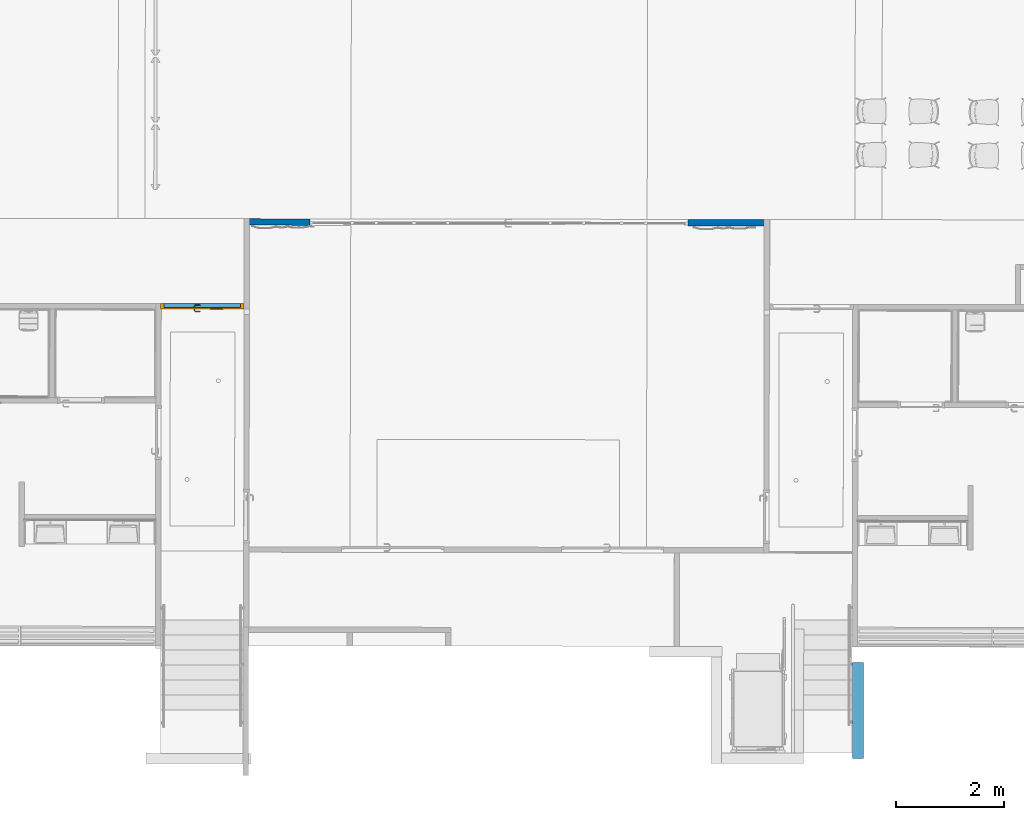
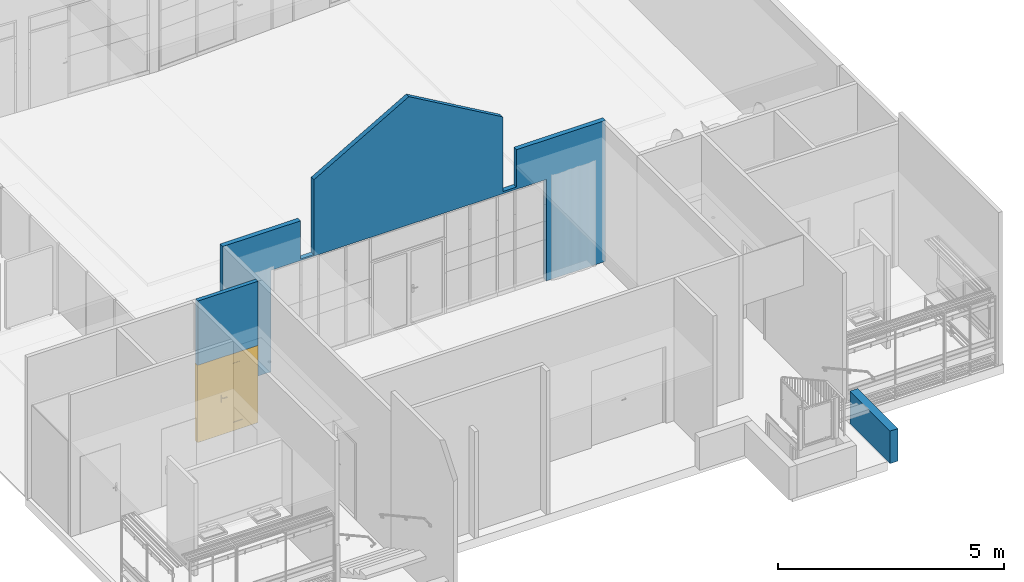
# One storey, part 13 of 43: 3 walls, 1 door, 4 openings.
"""IFC2X3 building model written with IfcOpenShell, lengths in metres."""

from ifc_helpers import new_model, entity, si_unit, converted_unit, derived_unit, direction, frame, frame_2d, origin, place, context, subcontext, project, spatial, polyline, rectangle, outline, extrude, clip, halfspace, bounded_halfspace, faceted_brep, source, transform, mapped, material, material_list, layer, layer_set, layer_usage, type_object, type_shapes, element, fill, save


model = new_model("IFC2X3")

# Units and contexts
model_context = context("Model", 3, precision=1e-05, world=origin(), true_north=direction((6.123233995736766e-17, 1.0)))
body_context = subcontext(model_context, "Body", "Model", "MODEL_VIEW")
ifc_project = project(units=[si_unit("LENGTHUNIT", "METRE"), si_unit("AREAUNIT", "SQUARE_METRE"), converted_unit("PLANEANGLEUNIT", "DEGREE", entity("IfcPlaneAngleMeasure", 0.017453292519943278), si_unit("PLANEANGLEUNIT", "RADIAN"), dimensions=[0, 0, 0, 0, 0, 0, 0]), derived_unit("THERMALTRANSMITTANCEUNIT", [(si_unit("MASSUNIT", "GRAM", prefix="KILO"), 1), (si_unit("THERMODYNAMICTEMPERATUREUNIT", "KELVIN"), -1), (si_unit("TIMEUNIT", "SECOND"), -3)])], contexts=[model_context])

# Site, building, storey
site_placement = place(None, frame((1253.6752467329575, 2072.143113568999, 91.49999999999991), z_axis=(0.0, 0.0, 1.0), x_axis=(0.7237211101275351, 0.6900925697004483, 0.0)))
site = spatial("IfcSite", under=ifc_project, at=site_placement, Name="Surface", CompositionType="ELEMENT")
building_placement = place(site_placement, origin())
building = spatial("IfcBuilding", under=site, at=building_placement, CompositionType="ELEMENT")
storey_placement = place(building_placement, frame((0.0, 0.0, -4.629999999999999)))
storey = spatial("IfcBuildingStorey", under=building, at=storey_placement, Name="rez de rue -1.10m", CompositionType="ELEMENT", Elevation=-4.629999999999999)

# Wall, opening, door
ifc_material_1 = material(Name="OMD_Cloison 100mm CF1h")
ifc_layer_1 = layer(ifc_material_1, 0.1)
ifc_layer_set_1 = layer_set([ifc_layer_1], Name="Mur de base:Cloison 100mm CF1h")
ifc_layer_usage_1 = layer_usage(ifc_layer_set_1, "AXIS2", "POSITIVE", -0.05)
wall_type_1 = type_object("IfcWallType", Name="Mur de base:Cloison 100mm CF1h", PredefinedType="STANDARD", material=ifc_layer_set_1)
wall_1_placement = place(storey_placement, frame((168.61201545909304, 1.5991254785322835, 0.0), z_axis=(0.0, 0.0, 1.0), x_axis=(-0.7232360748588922, 0.6906008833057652, 0.0)))
wall_1 = element("IfcWallStandardCase", 1, at=wall_1_placement, inside=storey, type_object=wall_type_1, material=ifc_layer_usage_1, Name="Mur de base:Cloison 100mm CF1h", ObjectType="Mur de base:Cloison 100mm CF1h", context=body_context, shape_type="Clipping", body=[
    clip(extrude(outline(polyline([(1.5370767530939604, -0.05000000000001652), (1.5371533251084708, 0.049999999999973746), (0.0014290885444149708, 0.049999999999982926), (0.0012996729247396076, -0.050000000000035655), (1.5370767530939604, -0.05000000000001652)])), origin(), (0.0, 0.0, 1.0), 3.821638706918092), bounded_halfspace(frame((0.0, -0.05000000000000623, 3.8207380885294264), z_axis=(-6.815720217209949e-06, -0.008901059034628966, 0.9999603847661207), x_axis=(0.9999997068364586, -0.0007657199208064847, 0.0)), False, frame((0.0, -0.05000000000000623, 3.8207380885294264)), polyline([(0.0, 0.0), (1.537076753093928, 0.0), (1.537153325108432, 0.09999999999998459), (7.657201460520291e-05, 0.09999999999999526), (0.0, 0.0)]))),
])
opening_1_placement = place(wall_1_placement, frame((7.65720145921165e-05, -0.049999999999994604, 0.004999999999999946)))
opening_1 = element("IfcOpeningElement", 2, at=opening_1_placement, cuts=wall_1, Name="OMD_Porte 2V tunnel:140x204 +occulus:1", ObjectType="Opening", context=body_context, shape_type="SweptSolid", body=[
    extrude(rectangle(XDim=2.085, YDim=1.5499999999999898, at=frame_2d((1.0425, 0.7749999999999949), x_axis=(1.0, 0.0))), frame((0.0, 0.0, 0.0), z_axis=(0.0, 1.0, 0.0), x_axis=(0.0, 0.0, 1.0)), (0.0, 0.0, 1.0), 0.09999999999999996),
])
ifc_material_2 = material(Name="<Unnamed>")
ifc_material_3 = material(Name="Porte - Poignée")
ifc_material_4 = material(Name="Verre")
ifc_material_5 = material(Name="OMD_RAL5023")
ifc_material_list = material_list([ifc_material_2, ifc_material_3, ifc_material_4, ifc_material_5])
door_style = type_object("IfcDoorStyle", Name="OMD_Porte 2V tunnel:140x204 +occulus", ConstructionType="NOTDEFINED", OperationType="NOTDEFINED", ParameterTakesPrecedence=False, Sizeable=False, material=ifc_material_list)
shared_shape = source(origin(), body_context, "Body", "Brep", [
    faceted_brep([(0.1450000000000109, 0.030000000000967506, 0.0), (0.6750000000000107, 0.030000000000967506, 0.0), (0.6750000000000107, 0.0, 0.0), (0.1450000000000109, 0.0, 0.0), (0.1450000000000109, 0.030000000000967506, 2.04), (0.1450000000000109, 0.0, 2.04), (0.6750000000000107, 0.0, 2.04), (0.6750000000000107, 0.030000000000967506, 2.04)], [[[0, 1, 2, 3]], [[4, 0, 3, 5]], [[5, 3, 2, 6]], [[6, 2, 1, 7]], [[7, 1, 0, 4]], [[4, 5, 6, 7]]]),
    faceted_brep([(0.7279747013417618, 0.035000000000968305, 1.0077804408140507), (0.7239999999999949, 0.035000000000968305, 1.0069999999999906), (0.7239999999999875, 0.035000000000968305, 0.9929999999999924), (0.7279747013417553, 0.035000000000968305, 0.9922195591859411), (0.7320252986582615, 0.035000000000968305, 0.9922195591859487), (0.7360000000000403, 0.035000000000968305, 0.9930000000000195), (0.7360000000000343, 0.035000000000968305, 1.0069999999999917), (0.7320252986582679, 0.035000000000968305, 1.007780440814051), (0.7360000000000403, 0.057485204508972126, 0.9930000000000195), (0.7360000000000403, 0.057485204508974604, 1.0069999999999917), (0.7320252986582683, 0.05913157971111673, 1.007780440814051), (0.7458389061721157, 0.07294518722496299, 1.007780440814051), (0.7441610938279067, 0.07699578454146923, 1.0077804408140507), (0.7279747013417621, 0.06080939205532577, 1.0077804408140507), (0.8356847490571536, 0.06646731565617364, 1.0077804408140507), (0.8385489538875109, 0.06933152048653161, 1.0077804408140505), (0.8308846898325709, 0.07699578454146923, 1.0077804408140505), (0.8292068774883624, 0.07294518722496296, 1.0077804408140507), (0.7239999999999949, 0.06245576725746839, 1.0069999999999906), (0.7239999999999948, 0.06245576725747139, 0.9929999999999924), (0.7279747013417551, 0.060809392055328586, 0.9922195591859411), (0.7441610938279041, 0.07699578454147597, 0.9922195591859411), (0.7458389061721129, 0.07294518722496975, 0.9922195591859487), (0.7320252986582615, 0.05913157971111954, 0.9922195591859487), (0.8385489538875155, 0.06933152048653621, 0.9922195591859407), (0.8356847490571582, 0.06646731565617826, 0.9922195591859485), (0.8292068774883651, 0.07294518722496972, 0.9922195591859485), (0.8308846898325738, 0.07699578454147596, 0.9922195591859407), (0.74748528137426, 0.06897048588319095, 0.9930000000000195), (0.7474852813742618, 0.06897048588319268, 1.0069999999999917), (0.7425147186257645, 0.08097048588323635, 1.0069999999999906), (0.7425147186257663, 0.08097048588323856, 0.9929999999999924), (0.787522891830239, 0.06897048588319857, 0.9930000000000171), (0.8275605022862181, 0.06897048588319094, 0.9930000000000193), (0.8275605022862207, 0.06897048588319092, 1.0069999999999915), (0.787522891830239, 0.06897048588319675, 1.0069999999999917), (0.7875228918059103, 0.07512492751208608, 1.0078781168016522), (0.8325310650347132, 0.0809704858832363, 1.0069999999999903), (0.7926005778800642, 0.08097048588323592, 1.0069999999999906), (0.8325310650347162, 0.08097048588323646, 0.9929999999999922), (0.7824452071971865, 0.08097048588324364, 0.9929999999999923), (0.7875228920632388, 0.07512492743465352, 0.9921218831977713), (0.8328742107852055, 0.06365677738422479, 0.9930000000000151), (0.8413594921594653, 0.0721420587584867, 0.99299999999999), (0.8413594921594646, 0.07214205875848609, 1.0069999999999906), (0.8328742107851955, 0.06365677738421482, 1.0069999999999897)], [[[0, 1, 2, 3, 4, 5, 6, 7]], [[6, 5, 8, 9]], [[9, 10, 7, 6]], [[10, 11, 12, 13, 0, 7]], [[14, 15, 16, 17]], [[13, 18, 1, 0]], [[2, 1, 18, 19]], [[19, 20, 3, 2]], [[20, 21, 22, 23, 4, 3]], [[24, 25, 26, 27]], [[23, 8, 5, 4]], [[9, 8, 28, 29]], [[29, 11, 10, 9]], [[12, 30, 18, 13]], [[19, 18, 30, 31]], [[31, 21, 20, 19]], [[22, 28, 8, 23]], [[29, 28, 32, 33, 34, 35]], [[11, 35, 36]], [[16, 37, 38]], [[30, 12, 38]], [[38, 12, 36]], [[36, 35, 17]], [[17, 16, 36]], [[35, 11, 29]], [[34, 17, 35]], [[11, 36, 12]], [[38, 36, 16]], [[31, 30, 38, 37, 39, 40]], [[40, 41, 21]], [[41, 40, 27]], [[21, 31, 40]], [[39, 27, 40]], [[41, 32, 22]], [[22, 21, 41]], [[26, 32, 41]], [[28, 22, 32]], [[32, 26, 33]], [[26, 41, 27]], [[42, 25, 24, 43, 44, 15, 14, 45]], [[34, 33, 42, 45]], [[45, 14, 17, 34]], [[15, 44, 37, 16]], [[39, 37, 44, 43]], [[43, 24, 27, 39]], [[25, 42, 33, 26]]]),
    faceted_brep([(0.7279747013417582, -0.004999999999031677, 1.0077804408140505), (0.7320252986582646, -0.004999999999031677, 1.007780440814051), (0.7360000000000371, -0.004999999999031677, 1.006999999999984), (0.7360000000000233, -0.004999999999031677, 0.9930000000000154), (0.7320252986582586, -0.004999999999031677, 0.9922195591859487), (0.7279747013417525, -0.004999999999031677, 0.992219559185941), (0.7239999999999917, -0.004999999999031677, 0.992999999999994), (0.7239999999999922, -0.004999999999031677, 1.0069999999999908), (0.723999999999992, -0.03265095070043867, 1.0069999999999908), (0.727974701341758, -0.031004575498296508, 1.0077804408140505), (0.7440235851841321, -0.047053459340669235, 1.0077804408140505), (0.745701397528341, -0.043002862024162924, 1.007780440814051), (0.7320252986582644, -0.029326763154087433, 1.007780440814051), (0.8385218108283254, -0.03938919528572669, 1.0077804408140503), (0.8356576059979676, -0.036524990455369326, 1.0077804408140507), (0.8291797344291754, -0.043002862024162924, 1.0077804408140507), (0.8308575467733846, -0.047053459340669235, 1.0077804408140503), (0.7360000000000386, -0.027680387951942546, 1.0069999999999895), (0.7360000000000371, -0.027680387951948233, 0.9930000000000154), (0.7320252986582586, -0.029326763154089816, 0.9922195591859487), (0.7457013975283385, -0.04300286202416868, 0.9922195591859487), (0.7440235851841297, -0.04705345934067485, 0.992219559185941), (0.7279747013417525, -0.031004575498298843, 0.992219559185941), (0.8356576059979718, -0.03652499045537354, 0.9922195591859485), (0.8385218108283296, -0.03938919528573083, 0.9922195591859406), (0.8308575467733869, -0.04705345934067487, 0.9922195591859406), (0.8291797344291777, -0.04300286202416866, 0.9922195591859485), (0.7239999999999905, -0.03265095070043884, 0.9929999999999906), (0.7423772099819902, -0.051028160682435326, 1.0069999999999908), (0.7473477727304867, -0.03902816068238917, 1.0069999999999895), (0.7473477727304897, -0.03902816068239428, 0.9930000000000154), (0.7423772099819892, -0.05102816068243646, 0.9929999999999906), (0.7823076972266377, -0.05102816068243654, 1.0069999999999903), (0.7874405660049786, -0.045182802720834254, 1.0078781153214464), (0.8325039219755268, -0.051028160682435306, 1.0069999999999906), (0.7874405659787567, -0.039028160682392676, 1.0069999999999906), (0.8275333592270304, -0.039028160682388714, 1.0069999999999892), (0.827533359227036, -0.03902816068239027, 0.9930000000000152), (0.7874405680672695, -0.03902816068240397, 0.9930000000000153), (0.7874405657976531, -0.04518280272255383, 0.9921218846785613), (0.832503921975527, -0.05102816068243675, 0.9929999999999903), (0.7925734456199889, -0.051028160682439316, 0.9929999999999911), (0.8328470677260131, -0.03371445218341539, 1.0069999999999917), (0.8413323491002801, -0.042199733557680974, 1.0069999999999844), (0.841332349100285, -0.04219973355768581, 0.9929999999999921), (0.8328470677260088, -0.03371445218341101, 0.9930000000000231)], [[[0, 1, 2, 3, 4, 5, 6, 7]], [[8, 9, 0, 7]], [[9, 10, 11, 12, 1, 0]], [[13, 14, 15, 16]], [[12, 17, 2, 1]], [[3, 2, 17, 18]], [[18, 19, 4, 3]], [[19, 20, 21, 22, 5, 4]], [[23, 24, 25, 26]], [[22, 27, 6, 5]], [[7, 6, 27, 8]], [[28, 10, 9, 8]], [[11, 29, 17, 12]], [[18, 17, 29, 30]], [[30, 20, 19, 18]], [[21, 31, 27, 22]], [[8, 27, 31, 28]], [[32, 33, 10]], [[33, 32, 16]], [[10, 28, 32]], [[34, 16, 32]], [[33, 35, 11]], [[11, 10, 33]], [[15, 35, 33]], [[29, 11, 35]], [[35, 15, 36]], [[15, 33, 16]], [[30, 29, 35, 36, 37, 38]], [[20, 38, 39]], [[25, 40, 41]], [[31, 21, 41]], [[41, 21, 39]], [[39, 38, 26]], [[26, 25, 39]], [[38, 20, 30]], [[37, 26, 38]], [[20, 39, 21]], [[41, 39, 25]], [[28, 31, 41, 40, 34, 32]], [[42, 14, 13, 43, 44, 24, 23, 45]], [[43, 13, 16, 34]], [[14, 42, 36, 15]], [[37, 36, 42, 45]], [[45, 23, 26, 37]], [[24, 44, 40, 25]], [[34, 40, 44, 43]]]),
    faceted_brep([(0.7403527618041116, 0.030000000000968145, 0.8660039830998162), (0.7500000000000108, 0.030000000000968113, 0.8700000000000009), (0.7500000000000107, 0.030000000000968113, 1.0800000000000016), (0.7403527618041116, 0.030000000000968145, 1.0839960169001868), (0.730000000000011, 0.03000000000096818, 1.0853589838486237), (0.7196472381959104, 0.03000000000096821, 1.0839960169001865), (0.7100000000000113, 0.030000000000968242, 1.0800000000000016), (0.7100000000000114, 0.030000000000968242, 0.8700000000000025), (0.7196472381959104, 0.03000000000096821, 0.866003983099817), (0.7300000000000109, 0.03000000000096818, 0.8646410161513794), (0.7403527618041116, 0.035000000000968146, 1.0839960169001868), (0.7500000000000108, 0.03500000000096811, 1.0800000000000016), (0.7500000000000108, 0.03500000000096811, 0.8700000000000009), (0.7403527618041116, 0.035000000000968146, 0.8660039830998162), (0.7300000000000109, 0.03500000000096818, 0.8646410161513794), (0.7196472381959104, 0.035000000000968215, 0.866003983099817), (0.7100000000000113, 0.03500000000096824, 0.8700000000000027), (0.7100000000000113, 0.03500000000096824, 1.0800000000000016), (0.7196472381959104, 0.035000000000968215, 1.0839960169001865), (0.730000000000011, 0.03500000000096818, 1.0853589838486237)], [[[0, 1, 2, 3, 4, 5, 6, 7, 8, 9]], [[10, 11, 12, 13, 14, 15, 16, 17, 18, 19]], [[11, 10, 3, 2]], [[3, 10, 19, 4]], [[19, 18, 5, 4]], [[18, 17, 6, 5]], [[7, 6, 17, 16]], [[16, 15, 8, 7]], [[8, 15, 14, 9]], [[14, 13, 0, 9]], [[13, 12, 1, 0]], [[2, 1, 12, 11]]]),
    faceted_brep([(0.7403527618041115, -0.004999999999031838, 0.8660039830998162), (0.7500000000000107, -0.004999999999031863, 0.8700000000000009), (0.7500000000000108, -0.004999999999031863, 1.0800000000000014), (0.7403527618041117, -0.004999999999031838, 1.0839960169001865), (0.7300000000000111, -0.004999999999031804, 1.0853589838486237), (0.7196472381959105, -0.00499999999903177, 1.0839960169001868), (0.7100000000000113, -0.0049999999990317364, 1.0800000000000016), (0.7100000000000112, -0.0049999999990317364, 0.8700000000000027), (0.71964723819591, -0.00499999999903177, 0.8660039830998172), (0.7300000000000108, -0.004999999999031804, 0.8646410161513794), (0.7403527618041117, 0.0, 1.0839960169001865), (0.7500000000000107, 0.0, 1.0800000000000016), (0.7500000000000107, 0.0, 0.8700000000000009), (0.7403527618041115, 0.0, 0.8660039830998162), (0.7300000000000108, 0.0, 0.8646410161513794), (0.71964723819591, 0.0, 0.8660039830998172), (0.7100000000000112, 0.0, 0.8700000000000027), (0.7100000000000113, 0.0, 1.0800000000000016), (0.7196472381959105, 0.0, 1.0839960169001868), (0.7300000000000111, 0.0, 1.0853589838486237)], [[[0, 1, 2, 3, 4, 5, 6, 7, 8, 9]], [[10, 11, 12, 13, 14, 15, 16, 17, 18, 19]], [[16, 15, 8, 7]], [[8, 15, 14, 9]], [[14, 13, 0, 9]], [[13, 12, 1, 0]], [[2, 1, 12, 11]], [[11, 10, 3, 2]], [[3, 10, 19, 4]], [[19, 18, 5, 4]], [[18, 17, 6, 5]], [[7, 6, 17, 16]]]),
    faceted_brep([(1.01500000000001, 0.01100000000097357, 1.820000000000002), (1.01500000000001, 0.01100000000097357, 0.22000000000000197), (1.2650000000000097, 0.011000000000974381, 0.22000000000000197), (1.2650000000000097, 0.011000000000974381, 1.820000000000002), (1.2650000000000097, 0.019000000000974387, 0.22000000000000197), (1.2650000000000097, 0.01900000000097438, 1.820000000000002), (1.01500000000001, 0.01900000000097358, 0.22000000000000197), (1.01500000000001, 0.01900000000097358, 1.820000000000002)], [[[0, 1, 2, 3]], [[2, 4, 5, 3]], [[1, 6, 4, 2]], [[0, 7, 6, 1]], [[7, 5, 4, 6]], [[3, 5, 7, 0]]]),
    faceted_brep([(1.0150000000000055, 0.030000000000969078, 1.820000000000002), (1.0150000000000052, 0.030000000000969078, 0.22000000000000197), (1.0150000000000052, 0.01900000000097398, 0.22000000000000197), (1.0150000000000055, 0.01900000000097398, 1.820000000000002), (1.2650000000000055, 0.01900000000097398, 0.22000000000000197), (1.2650000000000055, 0.01900000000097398, 1.820000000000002), (1.0250000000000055, 0.01900000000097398, 0.23000000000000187), (1.0250000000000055, 0.01900000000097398, 1.8100000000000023), (1.2550000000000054, 0.01900000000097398, 1.8100000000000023), (1.2550000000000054, 0.01900000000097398, 0.23000000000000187), (1.2650000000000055, 0.030000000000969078, 0.22000000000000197), (1.2650000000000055, 0.030000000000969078, 1.820000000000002), (1.0100000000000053, 0.030000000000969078, 1.825000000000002), (1.0100000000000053, 0.030000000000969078, 0.21500000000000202), (1.2700000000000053, 0.030000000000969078, 0.21500000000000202), (1.2700000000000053, 0.030000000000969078, 1.825000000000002), (1.0100000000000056, 0.03398525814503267, 1.825000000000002), (1.0100000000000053, 0.03398525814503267, 0.21500000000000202), (1.2700000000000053, 0.03398525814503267, 0.21500000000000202), (1.2700000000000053, 0.03398525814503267, 1.825000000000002), (1.0250000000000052, 0.03398525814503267, 1.8100000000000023), (1.0250000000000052, 0.03398525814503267, 0.23000000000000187), (1.2550000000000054, 0.03398525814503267, 0.23000000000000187), (1.2550000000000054, 0.03398525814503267, 1.8100000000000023)], [[[0, 1, 2, 3]], [[3, 2, 4, 5], [6, 7, 8, 9]], [[1, 10, 4, 2]], [[1, 0, 11, 10], [12, 13, 14, 15]], [[16, 17, 13, 12]], [[17, 18, 14, 13]], [[17, 16, 19, 18], [20, 21, 22, 23]], [[7, 6, 21, 20]], [[6, 9, 22, 21]], [[10, 11, 5, 4]], [[18, 19, 15, 14]], [[9, 8, 23, 22]], [[11, 0, 3, 5]], [[19, 16, 12, 15]], [[8, 7, 20, 23]]], outer=[[True], [True, False], [True], [False, True], [True], [True], [True, False], [True], [True], [True], [True], [True], [True], [True], [True]]),
    faceted_brep([(1.0100000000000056, 0.0, 1.825000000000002), (1.0100000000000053, 0.0, 0.21500000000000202), (1.0100000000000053, -0.003827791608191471, 0.21500000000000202), (1.0100000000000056, -0.003827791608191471, 1.825000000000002), (1.2700000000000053, -0.003827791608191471, 0.21500000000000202), (1.2700000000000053, -0.003827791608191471, 1.825000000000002), (1.0250000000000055, -0.003827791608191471, 0.23000000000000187), (1.0250000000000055, -0.003827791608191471, 1.8100000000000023), (1.2550000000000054, -0.003827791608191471, 1.8100000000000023), (1.2550000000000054, -0.003827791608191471, 0.23000000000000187), (1.2700000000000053, 0.0, 0.21500000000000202), (1.2700000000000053, 0.0, 1.825000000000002), (1.0150000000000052, 0.0, 1.820000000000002), (1.0150000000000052, 0.0, 0.22000000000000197), (1.2650000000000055, 0.0, 0.22000000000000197), (1.2650000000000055, 0.0, 1.820000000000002), (1.2650000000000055, 0.011000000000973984, 0.22000000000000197), (1.2650000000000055, 0.011000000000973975, 1.820000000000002), (1.0150000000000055, 0.011000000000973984, 0.22000000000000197), (1.0150000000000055, 0.011000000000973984, 1.820000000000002), (1.2550000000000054, 0.011000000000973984, 0.23000000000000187), (1.0250000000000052, 0.011000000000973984, 0.23000000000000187), (1.2550000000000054, 0.011000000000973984, 1.8100000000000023), (1.0250000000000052, 0.011000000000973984, 1.8100000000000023)], [[[0, 1, 2, 3]], [[3, 2, 4, 5], [6, 7, 8, 9]], [[1, 10, 4, 2]], [[1, 0, 11, 10], [12, 13, 14, 15]], [[10, 11, 5, 4]], [[16, 17, 15, 14]], [[18, 16, 14, 13]], [[19, 18, 13, 12]], [[6, 9, 20, 21]], [[9, 8, 22, 20]], [[7, 6, 21, 23]], [[23, 21, 20, 22], [18, 19, 17, 16]], [[11, 0, 3, 5]], [[17, 19, 12, 15]], [[8, 7, 23, 22]]], outer=[[True], [True, False], [True], [True, False], [True], [True], [True], [True], [True], [True], [True], [False, True], [True], [True], [True]]),
    faceted_brep([(1.2650000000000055, 0.030000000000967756, 0.22000000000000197), (1.0150000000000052, 0.0300000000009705, 0.22000000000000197), (1.0150000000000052, 0.0, 0.22000000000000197), (1.2650000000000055, 0.0, 0.22000000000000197), (0.6750000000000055, 0.030000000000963, 0.0), (1.6050000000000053, 0.0300000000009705, 0.0), (1.6050000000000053, 0.0, 0.0), (0.675000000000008, 0.0, 0.0), (0.6750000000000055, 0.030000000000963, 2.04), (0.675000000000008, 0.0, 2.04), (1.6050000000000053, 0.0, 2.04), (1.2650000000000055, 0.0, 1.820000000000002), (1.0150000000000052, 0.0, 1.820000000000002), (1.6050000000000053, 0.0300000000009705, 2.04), (1.0150000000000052, 0.030000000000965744, 1.820000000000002), (1.2650000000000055, 0.030000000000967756, 1.820000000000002)], [[[0, 1, 2, 3]], [[4, 5, 6, 7]], [[8, 4, 7, 9]], [[9, 7, 6, 10], [11, 3, 2, 12]], [[10, 6, 5, 13]], [[14, 1, 0, 15], [13, 5, 4, 8]], [[15, 0, 3, 11]], [[12, 2, 1, 14]], [[8, 9, 10, 13]], [[11, 12, 14, 15]]], outer=[[True], [True], [True], [True, False], [True], [False, True], [True], [True], [True], [True]]),
    faceted_brep([(0.10000000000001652, 0.0, 0.0), (0.10000000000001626, 0.10000000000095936, 0.0), (0.1600000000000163, 0.10000000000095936, 0.0), (0.16000000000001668, 0.030000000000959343, 0.0), (0.14500000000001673, 0.0300000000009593, 0.0), (0.14500000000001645, 0.0, 0.0), (0.14500000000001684, 0.0, 2.0399999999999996), (1.605000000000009, 0.0, 2.0399999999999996), (1.6050000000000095, 0.0, 0.0), (1.6500000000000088, 0.0, 0.0), (1.6500000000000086, 0.0, 2.0849999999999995), (0.10000000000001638, 0.0, 2.085), (0.1450000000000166, 0.0300000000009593, 2.0399999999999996), (0.16000000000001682, 0.030000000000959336, 2.0249999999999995), (1.5900000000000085, 0.03000000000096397, 2.0249999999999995), (1.5900000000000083, 0.03000000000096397, 0.0), (1.6050000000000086, 0.030000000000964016, 0.0), (1.6050000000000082, 0.030000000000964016, 2.039999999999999), (0.16000000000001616, 0.10000000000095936, 2.0249999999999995), (0.10000000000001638, 0.10000000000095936, 2.0849999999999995), (1.6500000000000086, 0.10000000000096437, 2.0849999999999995), (1.6500000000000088, 0.10000000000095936, 0.0), (1.5900000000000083, 0.10000000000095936, 0.0), (1.5900000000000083, 0.10000000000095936, 2.0249999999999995)], [[[0, 1, 2, 3, 4, 5]], [[5, 6, 7, 8, 9, 10, 11, 0]], [[4, 12, 6, 5]], [[3, 13, 14, 15, 16, 17, 12, 4]], [[2, 18, 13, 3]], [[1, 19, 20, 21, 22, 23, 18, 2]], [[0, 11, 19, 1]], [[10, 9, 21, 20]], [[9, 8, 16, 15, 22, 21]], [[17, 16, 8, 7]], [[23, 22, 15, 14]], [[12, 17, 7, 6]], [[18, 23, 14, 13]], [[11, 10, 20, 19]]]),
])
type_shapes(door_style, [shared_shape])
door_placement = place(opening_1_placement, frame((1.6500000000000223, 0.09999999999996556, 0.0), z_axis=(0.0, 0.0, 1.0), x_axis=(-1.0, 0.0, 0.0)))
door = element("IfcDoor", 3, at=door_placement, inside=storey, type_object=door_style, material=ifc_material_list, Name="OMD_Porte 2V tunnel:140x204 +occulus", ObjectType="OMD_Porte 2V tunnel:140x204 +occulus", OverallHeight=2.085, OverallWidth=1.549999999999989, context=body_context, shape_type="MappedRepresentation", body=[
    mapped(shared_shape, transform((0.0, 0.0, 0.0), scale=1.0)),
])
fill(opening_1, door)

# Wall, openings
ifc_layer_2 = layer(ifc_material_1, 0.12)
ifc_layer_set_2 = layer_set([ifc_layer_2], Name="Mur de base:Cloison 120mm CF1h")
ifc_layer_usage_2 = layer_usage(ifc_layer_set_2, "AXIS2", "NEGATIVE", 0.06)
wall_type_2 = type_object("IfcWallType", Name="Mur de base:Cloison 120mm CF1h", PredefinedType="STANDARD", material=ifc_layer_set_2)
wall_2_placement = place(storey_placement, frame((169.6976198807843, 2.7343452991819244, 0.0), z_axis=(0.0, 0.0, 1.0), x_axis=(0.7227070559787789, -0.6911544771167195, 0.0)))
wall_2 = element("IfcWallStandardCase", 4, at=wall_2_placement, inside=storey, type_object=wall_type_2, material=ifc_layer_usage_2, Name="Mur de base:Cloison 120mm CF1h", ObjectType="Mur de base:Cloison 120mm CF1h", context=body_context, shape_type="Clipping", body=[
    clip(clip(extrude(rectangle(XDim=9.768340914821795, YDim=0.11999999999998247, at=frame_2d((4.884170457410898, -1.6375789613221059e-15), x_axis=(-1.0, 0.0))), origin(), (0.0, 0.0, 1.0), 6.2002655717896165), halfspace(frame((9.76834091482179, 0.0, 3.8076488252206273), z_axis=(0.43018645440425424, 0.0, 0.902740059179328), x_axis=(0.0, 1.0, 0.0)), False)), halfspace(frame((4.747469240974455, 0.0, 6.2002655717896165), z_axis=(-0.4493115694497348, 0.0, 0.8933751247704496), x_axis=(0.0, 1.0, 0.0)), False)),
])
opening_2_placement = place(wall_2_placement, origin())
element("IfcOpeningElement", 5, at=opening_2_placement, cuts=wall_2, Name="Mur de base:Cloison 120mm CF1h", ObjectType="Opening", context=body_context, shape_type="SweptSolid", body=[
    extrude(rectangle(XDim=2.740000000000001, YDim=7.031591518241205, at=frame_2d((1.84297022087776e-14, -3.3306690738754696e-16), x_axis=(0.0, 1.0))), frame((4.739768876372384, 0.059999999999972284, 1.370000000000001), z_axis=(0.0, -1.0, 0.0), x_axis=(1.0, 0.0, 0.0)), (0.0, 0.0, 1.0), 0.12000000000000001),
])
opening_3_placement = place(wall_2_placement, origin())
element("IfcOpeningElement", 6, at=opening_3_placement, cuts=wall_2, Name="Mur de base:Cloison 120mm CF1h", ObjectType="Opening", context=body_context, shape_type="SweptSolid", body=[
    extrude(outline(polyline([(-2.3287788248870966, -0.8538025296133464), (3.233034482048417, -0.8538025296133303), (0.47433999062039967, -0.6356902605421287), (-0.3931799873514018, 1.1847878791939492), (-0.7094462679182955, 1.0340762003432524), (-0.27596939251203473, 0.12443124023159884), (-2.3287788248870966, -0.8538025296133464)])), frame((7.298764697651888, 0.05999999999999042, 4.038696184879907), z_axis=(0.0, -1.0, 0.0), x_axis=(-0.9027400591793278, 0.0, 0.43018645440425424)), (0.0, 0.0, 1.0), 0.12),
])
opening_4_placement = place(wall_2_placement, origin())
element("IfcOpeningElement", 7, at=opening_4_placement, cuts=wall_2, Name="Mur de base:Cloison 120mm CF1h", ObjectType="Opening", context=body_context, shape_type="SweptSolid", body=[
    extrude(outline(polyline([(-3.226137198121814, -0.8055716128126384), (2.087945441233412, -0.8055716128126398), (0.31506112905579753, 0.08607783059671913), (0.7790143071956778, 1.0085651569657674), (0.4760524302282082, 1.1609359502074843), (-0.4319361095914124, -0.6444357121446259), (-3.226137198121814, -0.8055716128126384)])), frame((2.2272711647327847, 0.05999999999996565, 4.03104716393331), z_axis=(0.0, -1.0, 0.0), x_axis=(-0.8933751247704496, 0.0, -0.4493115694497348)), (0.0, 0.0, 1.0), 0.11999999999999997),
])

# Wall
ifc_material_6 = material(Name="Béton - Béton coulé sur place")
ifc_layer_3 = layer(ifc_material_6, 0.2)
ifc_layer_set_3 = layer_set([ifc_layer_3], Name="Mur de base:BA 20")
ifc_layer_usage_3 = layer_usage(ifc_layer_set_3, "AXIS2", "NEGATIVE", 0.1)
wall_type_3 = type_object("IfcWallType", Name="Mur de base:BA 20", PredefinedType="STANDARD", material=ifc_layer_set_3)
wall_3_placement = place(storey_placement, frame((171.0738326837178, -12.360454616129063, 0.0), z_axis=(0.0, 0.0, 1.0), x_axis=(0.6911544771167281, 0.722707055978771, 0.0)))
element("IfcWallStandardCase", 8, at=wall_3_placement, inside=storey, type_object=wall_type_3, material=ifc_layer_usage_3, Name="Mur de base:BA 20", ObjectType="Mur de base:BA 20", context=body_context, shape_type="SweptSolid", body=[
    extrude(outline(polyline([(-0.1002101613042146, -0.890058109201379), (0.0997898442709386, -0.890058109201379), (0.10021015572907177, 0.890034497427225), (-0.09978983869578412, 0.8900817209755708), (-0.1002101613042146, -0.890058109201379)])), frame((0.8900581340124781, 0.0, 0.0), z_axis=(0.0, 0.0, 1.0), x_axis=(-0.000236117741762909, 0.9999999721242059, 0.0)), (0.0, 0.0, 1.0), 0.8799999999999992),
])

save(model, "model.ifc")
